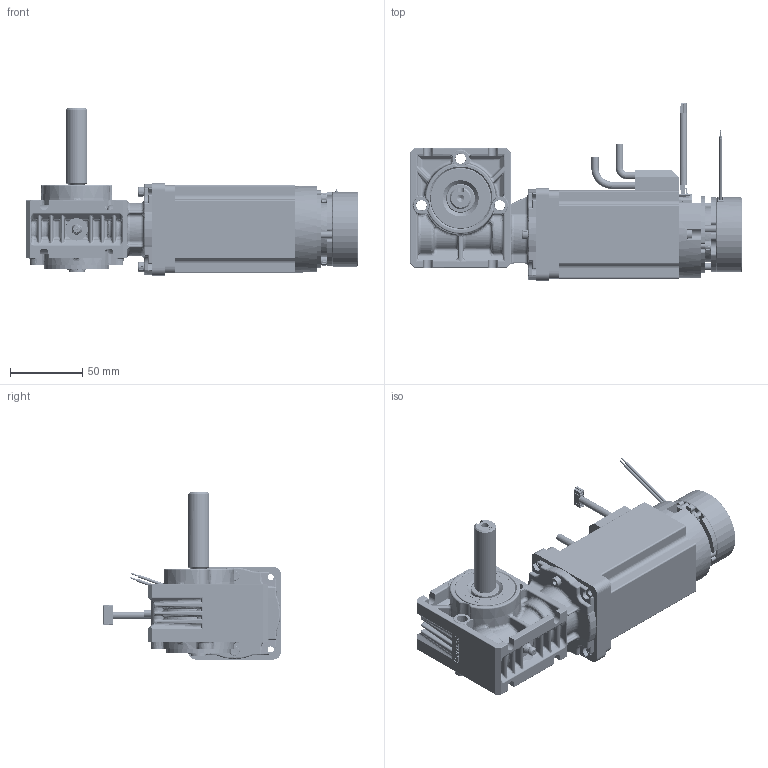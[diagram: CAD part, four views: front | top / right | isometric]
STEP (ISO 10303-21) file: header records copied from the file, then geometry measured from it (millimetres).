
FILE_DESCRIPTION (( 'STEP AP214' ), '1' );
FILE_NAME ('PBL60-50-GB28 - Encoder - Brake - Shaft.STEP', '2024-11-26T14:46:31', ( '' ), ( '' ), 'SwSTEP 2.0', 'SolidWorks 2023', '' );
FILE_SCHEMA (( 'AUTOMOTIVE_DESIGN' ));
Length unit declared in the file: millimetre
Products named in the file (1): PBL60-50-GB28 - Encoder - Brake - Shaft
Bounding box: 229.74 x 122.95 x 115.67 mm (x, y, z)
Volume: 631531.2 mm3; surface area: 189768.3 mm2
Topology: 49 solids, 49 shells, 7345 faces, 19480 edges, 12404 vertices
Faces by surface type: cylinder 2831, plane 2795, bspline 1028, cone 353, torus 206, sphere 132
Entity records: 370760 total; most frequent: CARTESIAN_POINT 114969, ORIENTED_EDGE 38666, DIRECTION 33536, EDGE_CURVE 19333, VERTEX_POINT 12395, AXIS2_PLACEMENT_3D 11916, VECTOR 9704, LINE 9704
